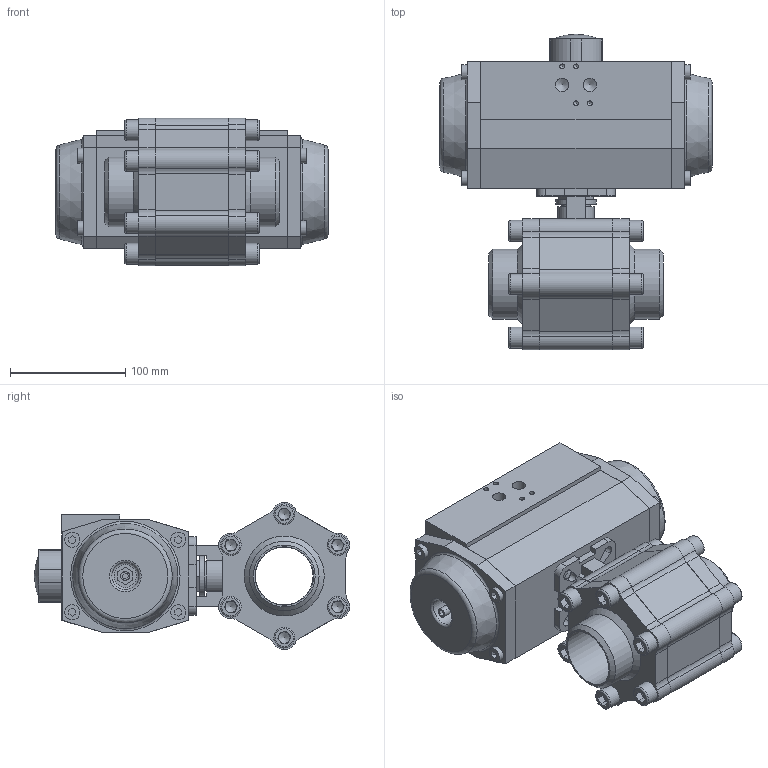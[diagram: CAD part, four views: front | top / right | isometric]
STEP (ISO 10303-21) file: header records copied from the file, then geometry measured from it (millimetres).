
FILE_DESCRIPTION (( 'STEP AP214' ), '1' );
FILE_NAME ('S33D BW DN50 + AP3.5.STEP', '2025-08-13T08:12:07', ( '' ), ( '' ), 'SwSTEP 2.0', 'SolidWorks 2021', '' );
FILE_SCHEMA (( 'AUTOMOTIVE_DESIGN' ));
Length unit declared in the file: millimetre
Products named in the file (6): S33D BW DN50 + AP3.5; S33D DN50 Buttweld; S33D Flens Buttweld DN50; S33D KK DN50 PN100; AP3.5_Default<As Machined>; socket head cap screw_din_DIN 912 M12 x 30 --- 30N
Assembly tree (18 placements, depth 3):
  S33D BW DN50 + AP3.5
    S33D DN50 Buttweld
      S33D KK DN50 PN100
      S33D Flens Buttweld DN50  x2
      socket head cap screw_din_DIN 912 M12 x 30 --- 30N  x13
    AP3.5_Default<As Machined>
Bounding box: 236 x 273.7 x 127.92 mm (x, y, z)
Volume: 3161075.1 mm3; surface area: 314967.7 mm2
Topology: 24 solids, 24 shells, 672 faces, 1609 edges, 1030 vertices
Faces by surface type: plane 437, cylinder 154, cone 46, torus 34, sphere 1
Full cylindrical faces by diameter (mm): 4.2 x8, 6.8 x4, 8 x2, 10.5 x6, 11.445 x2, 12 x13, 12.5 x12, 13 x8, 18 x13, 23.614 x2, 25 x1, 35 x1, 37.5 x1, 38.5 x1, 45 x1, 45.8 x1, 50 x1, 50.7 x2, 55 x1, 60.4 x2
Entity records: 11963 total; most frequent: DIRECTION 1907, CARTESIAN_POINT 1872, ORIENTED_EDGE 1716, EDGE_CURVE 858, AXIS2_PLACEMENT_3D 644, VECTOR 619, LINE 619, VERTEX_POINT 609
